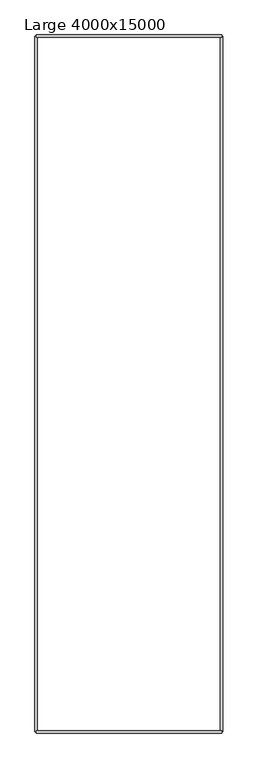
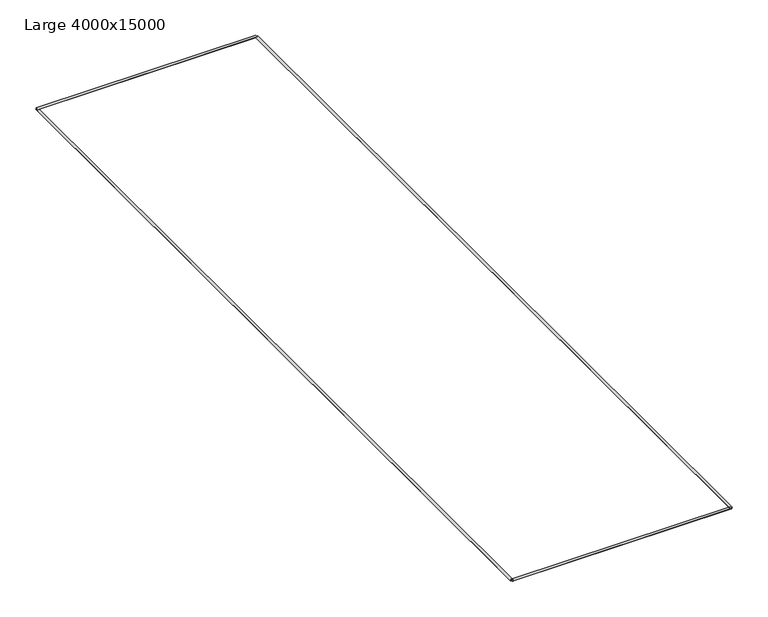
"""IFC4 building model written with IfcOpenShell, lengths in millimetres: proxy geometry, Lorry_Park_Space-Large : Large 4000x15000."""

from ifc_helpers import new_model, si_unit, origin, origin_with_axes, place, context, project, spatial, polyline, outline, extrude, source, transform, mapped, element, save


def large_4000x15000_39c9a88d(model_context):
    return source(origin(), model_context, "Body", "SweptSolid", [
        extrude(outline(polyline([(4000.0, -14975.0), (4000.0, -15025.0), (0.0, -15025.0), (0.0, -14975.0), (4000.0, -14975.0)])), origin_with_axes(), (0.0, 0.0, 1.0), 3.175),
        extrude(outline(polyline([(4000.0, 25.0), (4000.0, -25.0), (0.0, -25.0), (0.0, 25.0), (4000.0, 25.0)])), origin_with_axes(), (0.0, 0.0, 1.0), 3.175),
        extrude(outline(polyline([(3975.0, 0.0), (4025.0, 0.0), (4025.0, -15000.0), (3975.0, -15000.0), (3975.0, 0.0)])), origin_with_axes(), (0.0, 0.0, 1.0), 3.175),
        extrude(outline(polyline([(-25.0, 0.0), (25.0, 0.0), (25.0, -15000.0), (-25.0, -15000.0), (-25.0, 0.0)])), origin_with_axes(), (0.0, 0.0, 1.0), 3.175),
    ])


if __name__ == "__main__":
    model = new_model("IFC4")
    model_context = context("Model", 3, world=origin())
    ifc_project = project(units=[si_unit("LENGTHUNIT", "METRE", prefix="MILLI")], contexts=[model_context])
    site = spatial("IfcSite", under=ifc_project)
    building = spatial("IfcBuilding", under=site)
    placement = place(None, origin())
    large_4000x15000_shape = large_4000x15000_39c9a88d(model_context)
    element("IfcBuildingElementProxy", 1, Name="Lorry_Park_Space-Large : Large 4000x15000", ObjectType="Lorry_Park_Space-Large : Large 4000x15000", at=placement, inside=building, context=model_context, shape_type="MappedRepresentation", body=[
        mapped(large_4000x15000_shape, transform((0.0, 0.0, 0.0), x_axis=(1.0, 0.0, 0.0), y_axis=(0.0, 1.0, 0.0), z_axis=(0.0, 0.0, 1.0))),
    ])
    save(model, "model.ifc")
